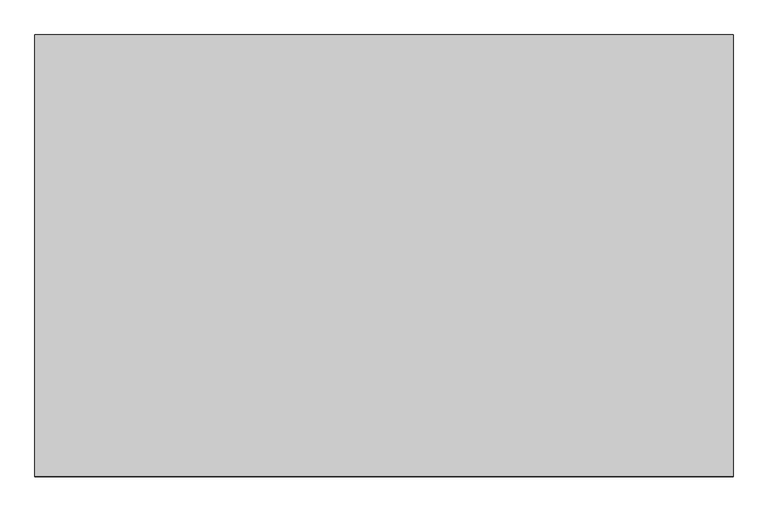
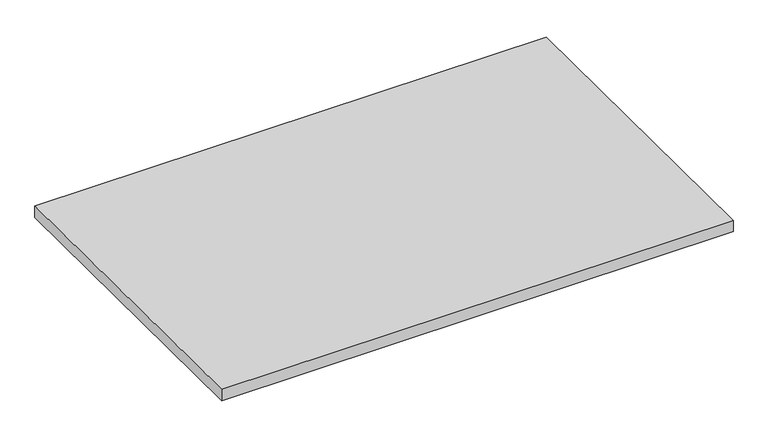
"""IFC4 building model written with IfcOpenShell, lengths in millimetres: proxy geometry, lastra tralicciata_inclinata_senza alleggerimenti : lastra tralicciata_inclinata_due_rompitratta."""

from ifc_helpers import new_model, si_unit, frame, origin, place, context, project, spatial, polyline, outline, extrude, source, transform, mapped, element, save


def generic_models_6132fe0e(model_context):
    return source(origin(), model_context, "Body", "SweptSolid", [
        extrude(outline(polyline([(0.0, -1080.0), (0.0, 0.0), (1706.5, 0.0), (1706.5, -1080.0), (0.0, -1080.0)])), frame((0.0, 539.9868406, -3.7698806), z_axis=(0.0, 0.006981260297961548, 0.9999756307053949), x_axis=(1.0, 0.0, 0.0)), (0.0, 0.0, 1.0), 40.0),
    ])


if __name__ == "__main__":
    model = new_model("IFC4")
    model_context = context("Model", 3, world=origin())
    ifc_project = project(units=[si_unit("LENGTHUNIT", "METRE", prefix="MILLI")], contexts=[model_context])
    site = spatial("IfcSite", under=ifc_project)
    building = spatial("IfcBuilding", under=site)
    placement = place(None, origin())
    generic_models_shape = generic_models_6132fe0e(model_context)
    element("IfcBuildingElementProxy", 1, Name="lastra tralicciata_inclinata_senza alleggerimenti : lastra tralicciata_inclinata_due_rompitratta", ObjectType="lastra tralicciata_inclinata_senza alleggerimenti : lastra tralicciata_inclinata_due_rompitratta", at=placement, inside=building, context=model_context, shape_type="MappedRepresentation", body=[
        mapped(generic_models_shape, transform((0.0, 0.0, 0.0), x_axis=(1.0, 0.0, 0.0), y_axis=(0.0, 1.0, 0.0), z_axis=(0.0, 0.0, 1.0))),
    ])
    save(model, "model.ifc")
